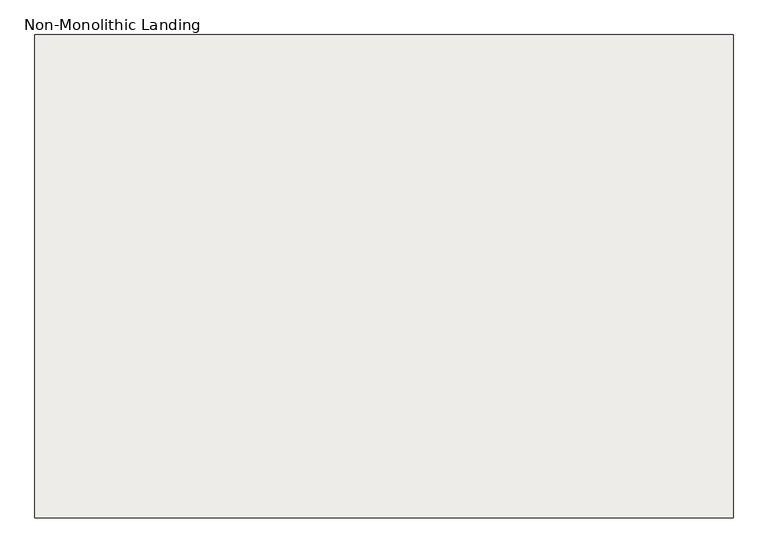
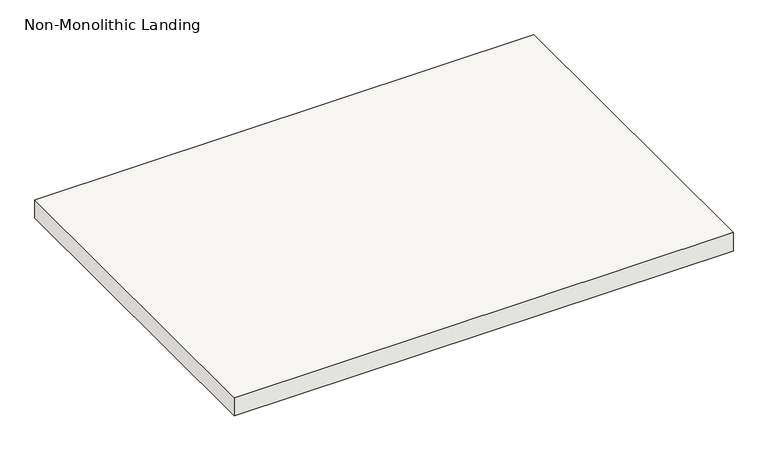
"""IFC4 building model written with IfcOpenShell, lengths in millimetres: slab geometry, Non-Monolithic Landing."""

from ifc_helpers import new_model, si_unit, frame, origin, place, context, project, spatial, polyline, outline, extrude, source, transform, mapped, element, save


def non_monolithic_landing_4aac39f3(model_context):
    return source(origin(), model_context, "Body", "SweptSolid", [
        extrude(outline(polyline([(87752.2048368, 33228.3530185), (89073.0048368, 33228.3530185), (89073.0048368, 32313.9530185), (87752.2048368, 32313.9530185), (87752.2048368, 33228.3530185)])), frame((0.0, 0.0, 2126.3428571), z_axis=(0.0, 0.0, 1.0), x_axis=(1.0, 0.0, 0.0)), (0.0, 0.0, 1.0), 50.8),
    ])


if __name__ == "__main__":
    model = new_model("IFC4")
    model_context = context("Model", 3, world=origin())
    ifc_project = project(units=[si_unit("LENGTHUNIT", "METRE", prefix="MILLI")], contexts=[model_context])
    site = spatial("IfcSite", under=ifc_project)
    building = spatial("IfcBuilding", under=site)
    placement = place(None, origin())
    non_monolithic_landing_shape = non_monolithic_landing_4aac39f3(model_context)
    element("IfcSlab", 1, ObjectType="Non-Monolithic Landing", at=placement, inside=building, context=model_context, shape_type="MappedRepresentation", body=[
        mapped(non_monolithic_landing_shape, transform((0.0, 0.0, 0.0), x_axis=(1.0, 0.0, 0.0), y_axis=(0.0, 1.0, 0.0), z_axis=(0.0, 0.0, 1.0))),
    ])
    save(model, "model.ifc")
